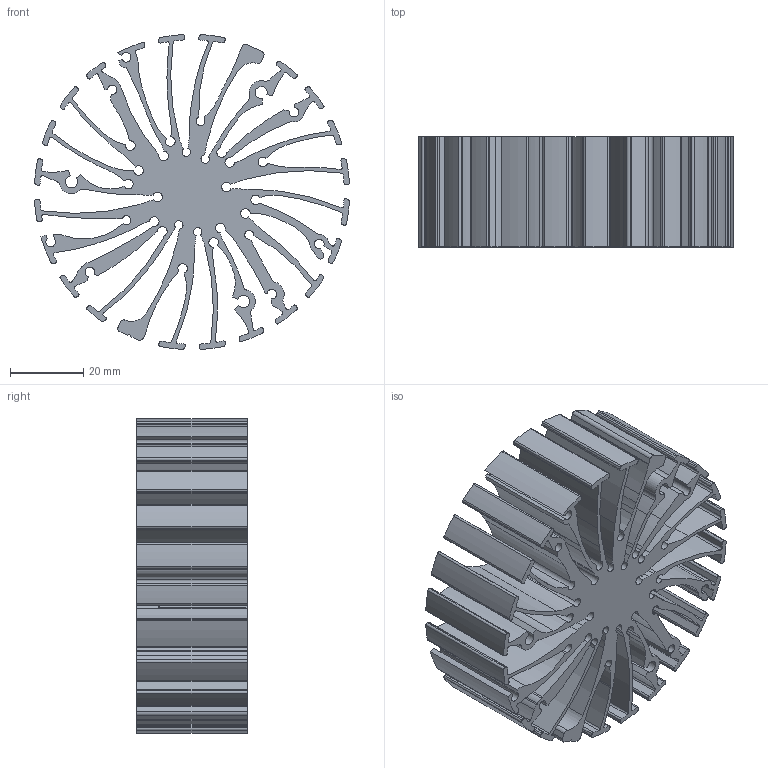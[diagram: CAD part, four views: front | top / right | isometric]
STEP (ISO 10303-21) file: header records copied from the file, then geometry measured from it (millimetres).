
FILE_DESCRIPTION (( 'STEP AP203' ), '1' );
FILE_NAME ('XSA-300.STEP', '2014-10-03T01:00:26', ( '' ), ( '' ), 'SwSTEP 2.0', 'SolidWorks 2014', '' );
FILE_SCHEMA (( 'CONFIG_CONTROL_DESIGN' ));
Length unit declared in the file: millimetre
Products named in the file (1): XSA-300
Bounding box: 85.85 x 30 x 85.85 mm (x, y, z)
Volume: 63043.6 mm3; surface area: 58995.1 mm2
Topology: 1 solids, 1 shells, 505 faces, 1509 edges, 1006 vertices
Faces by surface type: cylinder 455, plane 47, cone 3
Entity records: 17616 total; most frequent: DIRECTION 3425, CARTESIAN_POINT 3039, ORIENTED_EDGE 3018, EDGE_CURVE 1509, AXIS2_PLACEMENT_3D 1416, VERTEX_POINT 1006, CIRCLE 910, LINE 593
